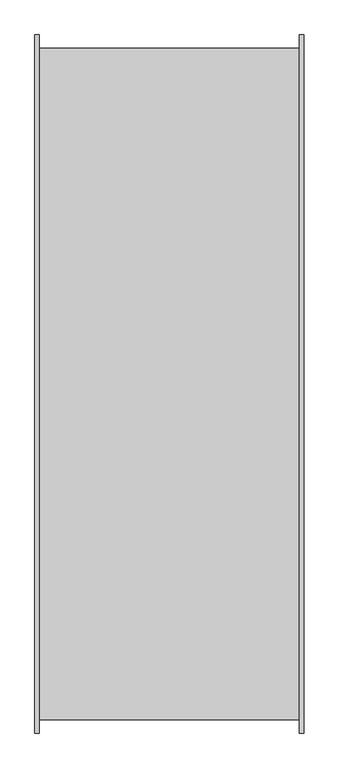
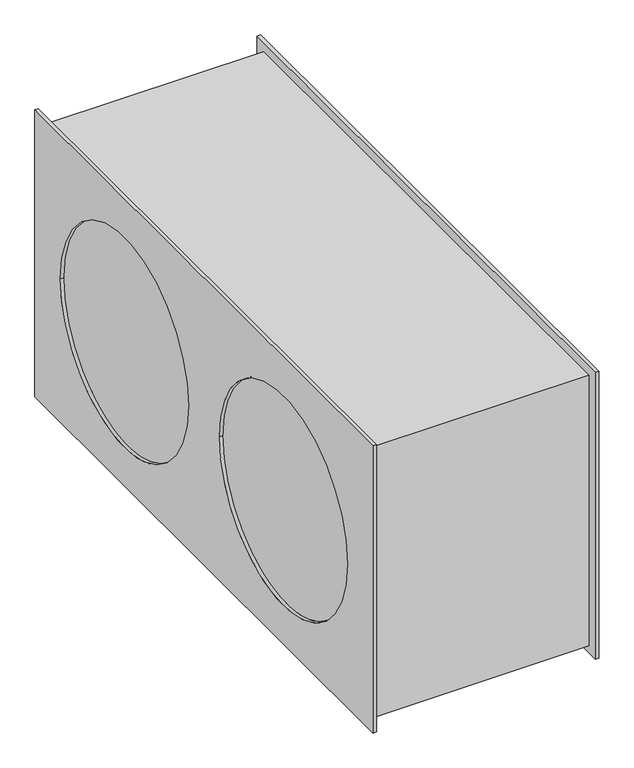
"""IFC4 building model written with IfcOpenShell, lengths in millimetres: unitary equipment geometry, VE-Wentylator-ParaForma-Harmann-JETTEC_REC_EC-Nawiewny : 100/50/10400EC."""

from ifc_helpers import new_model, si_unit, frame, origin, place, context, project, spatial, polyline, circle_curve, source, transform, mapped, element, save
from ifc_brep_helpers import plane_surface, revolved_surface, advanced_brep


def unitary_equipment_e4234641(model_context):
    return source(origin(), model_context, "Body", "AdvancedBrep", [
        advanced_brep(
        [(194.0, -519.3, -269.0), (194.0, -519.3, 269.0), (194.0, 519.3, 269.0), (194.0, 519.3, -269.0), (194.0, -499.8, 251.4), (194.0, -499.8, -255.7), (194.0, 499.8, -255.7), (194.0, 499.8, 251.4), (200.3, -519.3, -269.0), (200.3, 519.3, -269.0), (200.3, 519.3, 269.0), (200.3, -519.3, 269.0), (200.3, -440.8, 0.0), (200.3, -47.8, 0.0), (200.3, 47.8, 0.0), (200.3, 440.8, 0.0), (194.0, -47.8, 0.0), (194.0, -440.8, 0.0), (194.0, 440.8, 0.0), (194.0, 47.8, 0.0), (-194.0, -440.8, 0.0), (-194.0, -47.8, 0.0), (-194.0, 47.8, 0.0), (-194.0, 440.8, 0.0), (-194.0, -499.8, -255.7), (-194.0, -499.8, 251.4), (-194.0, 499.8, 251.4), (-194.0, 499.8, -255.7), (-200.3, -519.3, -269.0), (-200.3, -519.3, 269.0), (-200.3, 519.3, 269.0), (-200.3, 519.3, -269.0), (-200.3, -47.8, 0.0), (-200.3, -440.8, 0.0), (-200.3, 440.8, 0.0), (-200.3, 47.8, 0.0), (-194.0, -519.3, -269.0), (-194.0, 519.3, -269.0), (-194.0, 519.3, 269.0), (-194.0, -519.3, 269.0)],
        [
            (0, 1),
            (1, 2),
            (2, 3),
            (3, 0),
            (4, 5),
            (5, 6),
            (6, 7),
            (7, 4),
            (8, 9),
            (9, 10),
            (10, 11),
            (11, 8),
            (12, 13, circle_curve(frame((200.3, -244.3, 0.0), z_axis=(-1.0, 0.0, 0.0), x_axis=(0.0, 1.0, 0.0)), 196.5)),
            (13, 12, circle_curve(frame((200.3, -244.3, 0.0), z_axis=(-1.0, 0.0, 0.0), x_axis=(0.0, 1.0, 0.0)), 196.5)),
            (14, 15, circle_curve(frame((200.3, 244.3, 0.0), z_axis=(-1.0, 0.0, 0.0), x_axis=(0.0, 1.0, 0.0)), 196.5)),
            (15, 14, circle_curve(frame((200.3, 244.3, 0.0), z_axis=(-1.0, 0.0, 0.0), x_axis=(0.0, 1.0, 0.0)), 196.5)),
            (0, 8),
            (11, 1),
            (10, 2),
            (9, 3),
            (16, 13),
            (12, 17),
            (17, 16, circle_curve(frame((194.0, -244.3, 0.0), z_axis=(-1.0, 0.0, 0.0), x_axis=(0.0, 1.0, 0.0)), 196.5)),
            (16, 17, circle_curve(frame((194.0, -244.3, 0.0), z_axis=(-1.0, 0.0, 0.0), x_axis=(0.0, 1.0, 0.0)), 196.5)),
            (18, 15),
            (14, 19),
            (19, 18, circle_curve(frame((194.0, 244.3, 0.0), z_axis=(-1.0, 0.0, 0.0), x_axis=(0.0, 1.0, 0.0)), 196.5)),
            (18, 19, circle_curve(frame((194.0, 244.3, 0.0), z_axis=(-1.0, 0.0, 0.0), x_axis=(0.0, 1.0, 0.0)), 196.5)),
            (20, 21, circle_curve(frame((-194.0, -244.3, 0.0), z_axis=(-1.0, 0.0, 0.0), x_axis=(0.0, 1.0, 0.0)), 196.5)),
            (21, 20, circle_curve(frame((-194.0, -244.3, 0.0), z_axis=(-1.0, 0.0, 0.0), x_axis=(0.0, 1.0, 0.0)), 196.5)),
            (22, 23, circle_curve(frame((-194.0, 244.3, 0.0), z_axis=(-1.0, 0.0, 0.0), x_axis=(0.0, 1.0, 0.0)), 196.5)),
            (23, 22, circle_curve(frame((-194.0, 244.3, 0.0), z_axis=(-1.0, 0.0, 0.0), x_axis=(0.0, 1.0, 0.0)), 196.5)),
            (24, 5),
            (4, 25),
            (25, 24),
            (7, 26),
            (26, 25),
            (6, 27),
            (27, 26),
            (24, 27),
            (28, 29),
            (29, 30),
            (30, 31),
            (31, 28),
            (32, 33, circle_curve(frame((-200.3, -244.3, 0.0), z_axis=(1.0, 0.0, 0.0), x_axis=(0.0, 1.0, 0.0)), 196.5)),
            (33, 32, circle_curve(frame((-200.3, -244.3, 0.0), z_axis=(1.0, 0.0, 0.0), x_axis=(0.0, 1.0, 0.0)), 196.5)),
            (34, 35, circle_curve(frame((-200.3, 244.3, 0.0), z_axis=(1.0, 0.0, 0.0), x_axis=(0.0, 1.0, 0.0)), 196.5)),
            (35, 34, circle_curve(frame((-200.3, 244.3, 0.0), z_axis=(1.0, 0.0, 0.0), x_axis=(0.0, 1.0, 0.0)), 196.5)),
            (36, 37),
            (37, 38),
            (38, 39),
            (39, 36),
            (28, 36),
            (39, 29),
            (38, 30),
            (37, 31),
            (32, 21),
            (20, 33),
            (34, 23),
            (22, 35),
        ],
        [
            plane_surface(frame((194.0, 0.0, 0.0), z_axis=(-1.0, 0.0, 0.0), x_axis=(0.0, 0.0, 1.0))),
            plane_surface(frame((200.3, 0.0, 0.0), z_axis=(1.0, 0.0, 0.0), x_axis=(0.0, 0.0, 1.0))),
            plane_surface(frame((194.0, -519.3, -269.0), z_axis=(0.0, -1.0, 0.0), x_axis=(1.0, 0.0, 0.0))),
            plane_surface(frame((194.0, -519.3, 269.0), z_axis=(0.0, 0.0, 1.0), x_axis=(1.0, 0.0, 0.0))),
            plane_surface(frame((194.0, 519.3, 269.0), z_axis=(0.0, 1.0, 0.0), x_axis=(1.0, 0.0, 0.0))),
            plane_surface(frame((194.0, 519.3, -269.0), z_axis=(0.0, 0.0, -1.0), x_axis=(1.0, 0.0, 0.0))),
            revolved_surface(polyline([(194.0, -47.80000000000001, 0.0), (200.3, -47.80000000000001, 0.0)]), (194.0, -244.3, 0.0), (-1.0, 0.0, 0.0)),
            revolved_surface(polyline([(194.0, 440.8, 0.0), (200.3, 440.8, 0.0)]), (194.0, 244.3, 0.0), (-1.0, 0.0, 0.0)),
            plane_surface(frame((-194.0, 0.0, 0.0), z_axis=(-1.0, 0.0, 0.0), x_axis=(0.0, 0.0, 1.0))),
            plane_surface(frame((194.0, 0.0, 0.0), z_axis=(1.0, 0.0, 0.0), x_axis=(0.0, 0.0, 1.0))),
            plane_surface(frame((-194.0, -499.8, -255.7), z_axis=(0.0, -1.0, 0.0), x_axis=(1.0, 0.0, 0.0))),
            plane_surface(frame((-194.0, -499.8, 251.4), z_axis=(0.0, 0.0, 1.0), x_axis=(1.0, 0.0, 0.0))),
            plane_surface(frame((-194.0, 499.8, 251.4), z_axis=(0.0, 1.0, 0.0), x_axis=(1.0, 0.0, 0.0))),
            plane_surface(frame((-194.0, 499.8, -255.7), z_axis=(0.0, 0.0, -1.0), x_axis=(1.0, 0.0, 0.0))),
            plane_surface(frame((-200.3, 0.0, 0.0), z_axis=(-1.0, 0.0, 0.0), x_axis=(0.0, 0.0, 1.0))),
            plane_surface(frame((-194.0, 0.0, 0.0), z_axis=(1.0, 0.0, 0.0), x_axis=(0.0, 0.0, 1.0))),
            plane_surface(frame((-200.3, -519.3, -269.0), z_axis=(0.0, -1.0, 0.0), x_axis=(1.0, 0.0, 0.0))),
            plane_surface(frame((-200.3, -519.3, 269.0), z_axis=(0.0, 0.0, 1.0), x_axis=(1.0, 0.0, 0.0))),
            plane_surface(frame((-200.3, 519.3, 269.0), z_axis=(0.0, 1.0, 0.0), x_axis=(1.0, 0.0, 0.0))),
            plane_surface(frame((-200.3, 519.3, -269.0), z_axis=(0.0, 0.0, -1.0), x_axis=(1.0, 0.0, 0.0))),
            revolved_surface(polyline([(-200.3, -47.80000000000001, 0.0), (-194.0, -47.80000000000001, 0.0)]), (-200.3, -244.3, 0.0), (-1.0, 0.0, 0.0)),
            revolved_surface(polyline([(-200.3, 440.8, 0.0), (-194.0, 440.8, 0.0)]), (-200.3, 244.3, 0.0), (-1.0, 0.0, 0.0)),
        ],
        [
            (0, [[1, 2, 3, 4], [5, 6, 7, 8]]),
            (1, [[9, 10, 11, 12], [13, 14], [15, 16]]),
            (2, [[-1, 17, -12, 18]]),
            (3, [[-2, -18, -11, 19]]),
            (4, [[-3, -19, -10, 20]]),
            (5, [[-4, -20, -9, -17]]),
            (6, [[21, -13, 22, 23]]),
            (6, [[-21, 24, -22, -14]]),
            (7, [[25, -15, 26, 27]]),
            (7, [[-25, 28, -26, -16]]),
            (8, [[29, 30]]),
            (8, [[31, 32]]),
            (9, [[-23, -24]]),
            (9, [[-27, -28]]),
            (10, [[33, -5, 34, 35]]),
            (11, [[-34, -8, 36, 37]]),
            (12, [[-36, -7, 38, 39]]),
            (13, [[-33, 40, -38, -6]]),
            (14, [[41, 42, 43, 44], [45, 46], [47, 48]]),
            (15, [[49, 50, 51, 52], [-35, -37, -39, -40]]),
            (16, [[-41, 53, -52, 54]]),
            (17, [[-42, -54, -51, 55]]),
            (18, [[-43, -55, -50, 56]]),
            (19, [[-44, -56, -49, -53]]),
            (20, [[57, -29, 58, -45]]),
            (20, [[-57, -46, -58, -30]]),
            (21, [[59, -31, 60, -47]]),
            (21, [[-59, -48, -60, -32]]),
        ],
    ),
    ])


if __name__ == "__main__":
    model = new_model("IFC4")
    model_context = context("Model", 3, world=origin())
    ifc_project = project(units=[si_unit("LENGTHUNIT", "METRE", prefix="MILLI")], contexts=[model_context])
    site = spatial("IfcSite", under=ifc_project)
    building = spatial("IfcBuilding", under=site)
    placement = place(None, origin())
    unitary_equipment_shape = unitary_equipment_e4234641(model_context)
    element("IfcUnitaryEquipment", 1, ObjectType="VE-Wentylator-ParaForma-Harmann-JETTEC_REC_EC-Nawiewny : 100/50/10400EC", at=placement, inside=building, context=model_context, shape_type="MappedRepresentation", body=[
        mapped(unitary_equipment_shape, transform((0.0, 0.0, 0.0), x_axis=(1.0, 0.0, 0.0), y_axis=(0.0, 1.0, 0.0), z_axis=(0.0, 0.0, 1.0))),
    ])
    save(model, "model.ifc")
